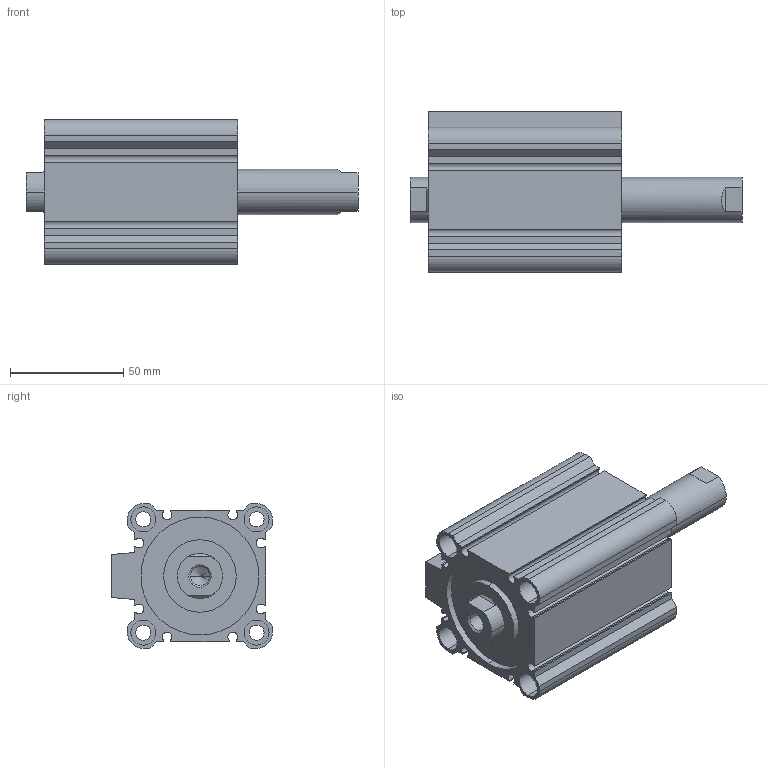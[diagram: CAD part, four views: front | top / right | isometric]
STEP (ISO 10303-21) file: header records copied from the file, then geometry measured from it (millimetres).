
FILE_DESCRIPTION (( 'STEP AP203' ), '1' );
FILE_NAME ('CCMB50-45F-P.STEP', '2020-08-05T11:44:11', ( '' ), ( '' ), 'SwSTEP 2.0', 'SolidWorks 2019', '' );
FILE_SCHEMA (( 'CONFIG_CONTROL_DESIGN' ));
Length unit declared in the file: millimetre
Products named in the file (1): CCMB50-45F-P
Bounding box: 146.5 x 71 x 64 mm (x, y, z)
Volume: 228551.3 mm3; surface area: 76156.8 mm2
Topology: 2 solids, 2 shells, 164 faces, 414 edges, 270 vertices
Faces by surface type: plane 78, cylinder 74, cone 12
Entity records: 5029 total; most frequent: DIRECTION 896, CARTESIAN_POINT 857, ORIENTED_EDGE 820, EDGE_CURVE 410, AXIS2_PLACEMENT_3D 325, VERTEX_POINT 270, VECTOR 246, LINE 246
